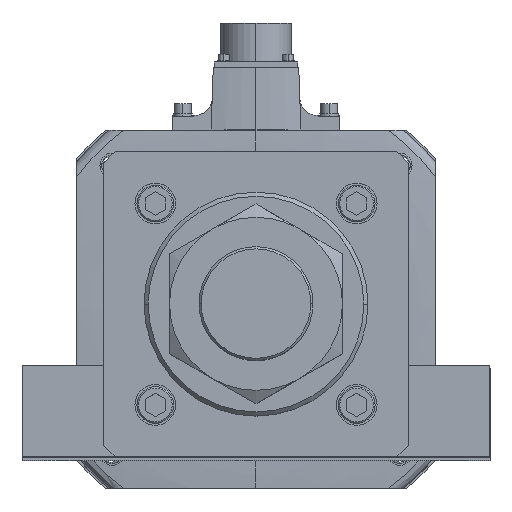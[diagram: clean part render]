
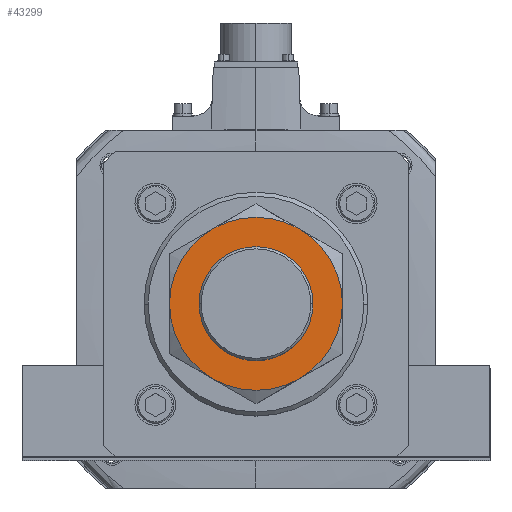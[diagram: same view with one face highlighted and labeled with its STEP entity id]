
A CAD part, top view. The second image highlights one B-rep face of the part: STEP entity #43299.
In plain terms, the highlighted planar face has unit normal (0, 0, 1).
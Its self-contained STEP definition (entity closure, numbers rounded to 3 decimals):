
#166 = EDGE_LOOP ( 'NONE', ( #16559, #18514 ) ) ;
#314 = AXIS2_PLACEMENT_3D ( 'NONE', #657, #38903, #9092 ) ;
#657 = CARTESIAN_POINT ( 'NONE',  ( 0., 0., 34. ) ) ;
#2222 = DIRECTION ( 'NONE',  ( 0., 0., -1. ) ) ;
#2840 = DIRECTION ( 'NONE',  ( 1., 0., 0. ) ) ;
#3754 = DIRECTION ( 'NONE',  ( 1., 0., 0. ) ) ;
#4258 = VERTEX_POINT ( 'NONE', #30053 ) ;
#4312 = ORIENTED_EDGE ( 'NONE', *, *, #25202, .F. ) ;
#6495 = AXIS2_PLACEMENT_3D ( 'NONE', #33049, #36624, #2840 ) ;
#9092 = DIRECTION ( 'NONE',  ( 1., 0., 0. ) ) ;
#10131 = EDGE_LOOP ( 'NONE', ( #12611, #22894, #10535, #4312, #34612, #33427 ) ) ;
#10535 = ORIENTED_EDGE ( 'NONE', *, *, #17506, .F. ) ;
#10973 = VERTEX_POINT ( 'NONE', #41052 ) ;
#11388 = VERTEX_POINT ( 'NONE', #47767 ) ;
#12522 = AXIS2_PLACEMENT_3D ( 'NONE', #16517, #42385, #3754 ) ;
#12611 = ORIENTED_EDGE ( 'NONE', *, *, #23476, .F. ) ;
#13418 = DIRECTION ( 'NONE',  ( 0., 0., 1. ) ) ;
#13907 = EDGE_CURVE ( 'NONE', #39235, #10973, #39472, .T. ) ;
#13963 = AXIS2_PLACEMENT_3D ( 'NONE', #21564, #51819, #52001 ) ;
#16517 = CARTESIAN_POINT ( 'NONE',  ( 0., 0., 34. ) ) ;
#16559 = ORIENTED_EDGE ( 'NONE', *, *, #44420, .F. ) ;
#17300 = CARTESIAN_POINT ( 'NONE',  ( 0., 0., 34. ) ) ;
#17506 = EDGE_CURVE ( 'NONE', #4258, #11388, #43881, .T. ) ;
#17902 = VERTEX_POINT ( 'NONE', #18467 ) ;
#18467 = CARTESIAN_POINT ( 'NONE',  ( -28., 0., 34. ) ) ;
#18514 = ORIENTED_EDGE ( 'NONE', *, *, #33936, .F. ) ;
#20471 = AXIS2_PLACEMENT_3D ( 'NONE', #46975, #13418, #21260 ) ;
#20980 = CIRCLE ( 'NONE', #13963, 42.5 ) ;
#21260 = DIRECTION ( 'NONE',  ( 1., 0., 0. ) ) ;
#21445 = VERTEX_POINT ( 'NONE', #24933 ) ;
#21564 = CARTESIAN_POINT ( 'NONE',  ( 0., 0., 34. ) ) ;
#22446 = CARTESIAN_POINT ( 'NONE',  ( 0., 0., 34. ) ) ;
#22894 = ORIENTED_EDGE ( 'NONE', *, *, #31897, .F. ) ;
#23124 = VERTEX_POINT ( 'NONE', #53243 ) ;
#23476 = EDGE_CURVE ( 'NONE', #23124, #41930, #43751, .T. ) ;
#24933 = CARTESIAN_POINT ( 'NONE',  ( 28., 0., 34. ) ) ;
#25202 = EDGE_CURVE ( 'NONE', #10973, #4258, #27464, .T. ) ;
#26563 = DIRECTION ( 'NONE',  ( 0., 0., -1. ) ) ;
#26833 = CIRCLE ( 'NONE', #44372, 42.5 ) ;
#27281 = CARTESIAN_POINT ( 'NONE',  ( 0., 0., 34. ) ) ;
#27464 = CIRCLE ( 'NONE', #32046, 42.5 ) ;
#27518 = DIRECTION ( 'NONE',  ( 1., 0., 0. ) ) ;
#28283 = CARTESIAN_POINT ( 'NONE',  ( 0., 0., 34. ) ) ;
#30053 = CARTESIAN_POINT ( 'NONE',  ( -21.25, 36.806, 34. ) ) ;
#30066 = DIRECTION ( 'NONE',  ( 0., 0., -1. ) ) ;
#31897 = EDGE_CURVE ( 'NONE', #11388, #23124, #20980, .T. ) ;
#31968 = AXIS2_PLACEMENT_3D ( 'NONE', #27281, #44956, #40270 ) ;
#32046 = AXIS2_PLACEMENT_3D ( 'NONE', #22446, #26563, #47442 ) ;
#33049 = CARTESIAN_POINT ( 'NONE',  ( 0., 0., 34. ) ) ;
#33427 = ORIENTED_EDGE ( 'NONE', *, *, #50063, .F. ) ;
#33936 = EDGE_CURVE ( 'NONE', #21445, #17902, #40275, .T. ) ;
#33966 = PLANE ( 'NONE',  #12522 ) ;
#34612 = ORIENTED_EDGE ( 'NONE', *, *, #13907, .F. ) ;
#36624 = DIRECTION ( 'NONE',  ( 0., 0., 1. ) ) ;
#37532 = FACE_BOUND ( 'NONE', #166, .T. ) ;
#38756 = CIRCLE ( 'NONE', #20471, 28. ) ;
#38903 = DIRECTION ( 'NONE',  ( 0., 0., -1. ) ) ;
#39235 = VERTEX_POINT ( 'NONE', #46352 ) ;
#39472 = CIRCLE ( 'NONE', #31968, 42.5 ) ;
#40270 = DIRECTION ( 'NONE',  ( 1., 0., 0. ) ) ;
#40275 = CIRCLE ( 'NONE', #6495, 28. ) ;
#41052 = CARTESIAN_POINT ( 'NONE',  ( -42.5, 0., 34. ) ) ;
#41930 = VERTEX_POINT ( 'NONE', #44074 ) ;
#42385 = DIRECTION ( 'NONE',  ( 0., 0., 1. ) ) ;
#43299 = ADVANCED_FACE ( 'NONE', ( #43560, #37532 ), #33966, .T. ) ;
#43560 = FACE_OUTER_BOUND ( 'NONE', #10131, .T. ) ;
#43751 = CIRCLE ( 'NONE', #314, 42.5 ) ;
#43881 = CIRCLE ( 'NONE', #52587, 42.5 ) ;
#44074 = CARTESIAN_POINT ( 'NONE',  ( 21.25, -36.806, 34. ) ) ;
#44372 = AXIS2_PLACEMENT_3D ( 'NONE', #17300, #30066, #47323 ) ;
#44420 = EDGE_CURVE ( 'NONE', #17902, #21445, #38756, .T. ) ;
#44956 = DIRECTION ( 'NONE',  ( 0., 0., -1. ) ) ;
#46352 = CARTESIAN_POINT ( 'NONE',  ( -21.25, -36.806, 34. ) ) ;
#46975 = CARTESIAN_POINT ( 'NONE',  ( 0., 0., 34. ) ) ;
#47323 = DIRECTION ( 'NONE',  ( 1., 0., 0. ) ) ;
#47442 = DIRECTION ( 'NONE',  ( -1., 0., 0. ) ) ;
#47767 = CARTESIAN_POINT ( 'NONE',  ( 21.25, 36.806, 34. ) ) ;
#50063 = EDGE_CURVE ( 'NONE', #41930, #39235, #26833, .T. ) ;
#51819 = DIRECTION ( 'NONE',  ( 0., 0., -1. ) ) ;
#52001 = DIRECTION ( 'NONE',  ( 1., 0., 0. ) ) ;
#52587 = AXIS2_PLACEMENT_3D ( 'NONE', #28283, #2222, #27518 ) ;
#53243 = CARTESIAN_POINT ( 'NONE',  ( 42.5, 0., 34. ) ) ;
